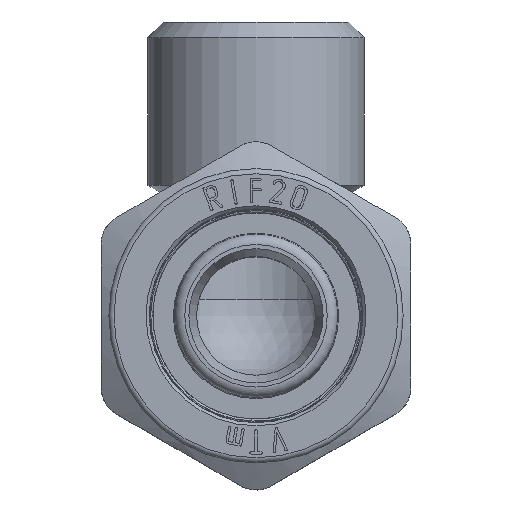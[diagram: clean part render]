
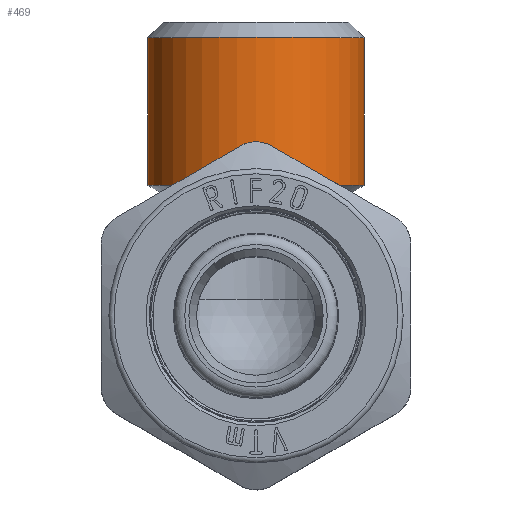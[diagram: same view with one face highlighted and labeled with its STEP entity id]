
A CAD part, top view. The second image highlights one B-rep face of the part: STEP entity #469.
In plain terms, the highlighted cylindrical face has radius 10.477 mm (diameter 20.955 mm), a full revolution.
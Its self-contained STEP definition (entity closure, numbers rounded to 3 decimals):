
#469=ADVANCED_FACE('',(#3402,#3404),#3406,.T.);
#3402=FACE_OUTER_BOUND('',#3403,.T.);
#3403=EDGE_LOOP('',(#6443));
#3404=FACE_OUTER_BOUND('',#3405,.T.);
#3405=EDGE_LOOP('',(#6444));
#3406=CYLINDRICAL_SURFACE('',#3407,10.478);
#3407=AXIS2_PLACEMENT_3D('',#3408,#3409,#3410);
#3408=CARTESIAN_POINT('',(0.,12.7,0.));
#3409=DIRECTION('',(0.,1.,0.));
#3410=DIRECTION('',(-1.,0.,0.));
#6443=ORIENTED_EDGE('',*,*,#7725,.F.);
#6444=ORIENTED_EDGE('',*,*,#7563,.F.);
#7563=EDGE_CURVE('',#9442,#9442,#9443,.F.);
#7725=EDGE_CURVE('',#9685,#9685,#9686,.T.);
#9442=VERTEX_POINT('',#15340);
#9443=CIRCLE('',#15341,10.478);
#9685=VERTEX_POINT('',#15909);
#9686=CIRCLE('',#15910,10.478);
#15340=CARTESIAN_POINT('',(-10.478,12.7,0.));
#15341=AXIS2_PLACEMENT_3D('',#15342,#15343,#15344);
#15342=CARTESIAN_POINT('',(0.,12.7,0.));
#15343=DIRECTION('',(0.,1.,0.));
#15344=DIRECTION('',(-1.,0.,0.));
#15909=CARTESIAN_POINT('',(-10.478,27.,0.));
#15910=AXIS2_PLACEMENT_3D('',#15911,#15912,#15913);
#15911=CARTESIAN_POINT('',(0.,27.,0.));
#15912=DIRECTION('',(0.,1.,0.));
#15913=DIRECTION('',(-1.,0.,0.));
